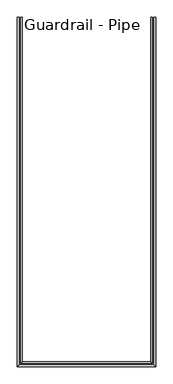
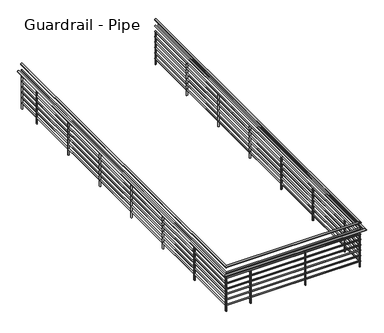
"""IFC4 building model written with IfcOpenShell, lengths in millimetres: railing geometry, Guardrail - Pipe."""

from ifc_helpers import new_model, si_unit, frame, origin, place, context, project, spatial, circle_curve, ellipse_curve, source, transform, mapped, element, save
from ifc_brep_helpers import plane_surface, cylinder_surface, advanced_brep


def guardrail_pipe_73f3f576(model_context):
    return source(origin(), model_context, "Body", "AdvancedBrep", [
        advanced_brep(
        [(13977.3813552, 40732.0, 4705.35), (13939.2813552, 40732.0, 4705.35), (13977.3813552, 32813.55, 4705.35), (13939.2813552, 32851.65, 4705.35), (10956.4813551, 32813.55, 4705.35), (10994.5813551, 32851.65, 4705.35), (10956.4813551, 40732.0, 4705.35), (10994.5813551, 40732.0, 4705.35)],
        [
            (0, 1, circle_curve(frame((13958.3313552, 40732.0, 4705.35), z_axis=(0.0, 1.0, 0.0), x_axis=(-1.0, 0.0, 0.0)), 19.05)),
            (1, 0, circle_curve(frame((13958.3313552, 40732.0, 4705.35), z_axis=(0.0, 1.0, 0.0), x_axis=(-1.0, 0.0, 0.0)), 19.05)),
            (0, 2),
            (2, 3, ellipse_curve(frame((13958.3313552, 32832.6, 4705.35), z_axis=(0.7071067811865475, 0.7071067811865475, 0.0), x_axis=(-0.7071067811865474, 0.7071067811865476, 0.0)), 26.9407684, 19.05)),
            (3, 1),
            (3, 2, ellipse_curve(frame((13958.3313552, 32832.6, 4705.35), z_axis=(0.7071067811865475, 0.7071067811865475, 0.0), x_axis=(-0.7071067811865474, 0.7071067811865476, 0.0)), 26.9407684, 19.05)),
            (2, 4),
            (4, 5, ellipse_curve(frame((10975.5313551, 32832.6, 4705.35), z_axis=(0.7071067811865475, -0.7071067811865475, 0.0), x_axis=(0.7071067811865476, 0.7071067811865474, 0.0)), 26.9407684, 19.05)),
            (5, 3),
            (5, 4, ellipse_curve(frame((10975.5313551, 32832.6, 4705.35), z_axis=(0.7071067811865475, -0.7071067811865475, 0.0), x_axis=(0.7071067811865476, 0.7071067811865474, 0.0)), 26.9407684, 19.05)),
            (6, 7, circle_curve(frame((10975.5313551, 40732.0, 4705.35), z_axis=(0.0, 1.0, 0.0), x_axis=(1.0, 0.0, 0.0)), 19.05)),
            (7, 6, circle_curve(frame((10975.5313551, 40732.0, 4705.35), z_axis=(0.0, 1.0, 0.0), x_axis=(1.0, 0.0, 0.0)), 19.05)),
            (4, 6),
            (7, 5),
        ],
        [
            plane_surface(frame((13958.3313552, 40732.0, 4724.4), z_axis=(0.0, 1.0, 0.0), x_axis=(0.0, 0.0, -1.0))),
            cylinder_surface(frame((13958.3313552, 40732.0, 4705.35), z_axis=(0.0, 1.0, 0.0), x_axis=(-1.0, 0.0, 0.0)), 19.05),
            cylinder_surface(frame((13958.3313552, 32832.6, 4705.35), z_axis=(1.0, 0.0, 0.0), x_axis=(0.0, 1.0, 0.0)), 19.05),
            plane_surface(frame((10975.5313551, 40732.0, 4724.4), z_axis=(0.0, 1.0, 0.0), x_axis=(0.0, 0.0, 1.0))),
            cylinder_surface(frame((10975.5313551, 32832.6, 4705.35), z_axis=(0.0, -1.0, 0.0), x_axis=(1.0, 0.0, 0.0)), 19.05),
        ],
        [
            (0, [[1, 2]]),
            (1, [[-1, 3, 4, 5]]),
            (1, [[-2, -5, 6, -3]]),
            (2, [[-4, 7, 8, 9]]),
            (2, [[-6, -9, 10, -7]]),
            (3, [[11, 12]]),
            (4, [[-8, 13, -12, 14]]),
            (4, [[-10, -14, -11, -13]]),
        ],
    ),
        advanced_brep(
        [(13971.0313552, 40732.0, 4559.3), (13945.6313552, 40732.0, 4559.3), (13971.0313552, 32819.9, 4559.3), (13945.6313552, 32845.3, 4559.3), (10962.8313551, 32819.9, 4559.3), (10988.2313551, 32845.3, 4559.3), (10962.8313551, 40732.0, 4559.3), (10988.2313551, 40732.0, 4559.3)],
        [
            (0, 1, circle_curve(frame((13958.3313552, 40732.0, 4559.3), z_axis=(0.0, 1.0, 0.0), x_axis=(-1.0, 0.0, 0.0)), 12.7)),
            (1, 0, circle_curve(frame((13958.3313552, 40732.0, 4559.3), z_axis=(0.0, 1.0, 0.0), x_axis=(-1.0, 0.0, 0.0)), 12.7)),
            (0, 2),
            (2, 3, ellipse_curve(frame((13958.3313552, 32832.6, 4559.3), z_axis=(0.7071067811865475, 0.7071067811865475, 0.0), x_axis=(-0.7071067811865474, 0.7071067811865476, 0.0)), 17.9605122, 12.7)),
            (3, 1),
            (3, 2, ellipse_curve(frame((13958.3313552, 32832.6, 4559.3), z_axis=(0.7071067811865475, 0.7071067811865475, 0.0), x_axis=(-0.7071067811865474, 0.7071067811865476, 0.0)), 17.9605122, 12.7)),
            (2, 4),
            (4, 5, ellipse_curve(frame((10975.5313551, 32832.6, 4559.3), z_axis=(0.7071067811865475, -0.7071067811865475, 0.0), x_axis=(0.7071067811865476, 0.7071067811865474, 0.0)), 17.9605122, 12.7)),
            (5, 3),
            (5, 4, ellipse_curve(frame((10975.5313551, 32832.6, 4559.3), z_axis=(0.7071067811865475, -0.7071067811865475, 0.0), x_axis=(0.7071067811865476, 0.7071067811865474, 0.0)), 17.9605122, 12.7)),
            (6, 7, circle_curve(frame((10975.5313551, 40732.0, 4559.3), z_axis=(0.0, 1.0, 0.0), x_axis=(1.0, 0.0, 0.0)), 12.7)),
            (7, 6, circle_curve(frame((10975.5313551, 40732.0, 4559.3), z_axis=(0.0, 1.0, 0.0), x_axis=(1.0, 0.0, 0.0)), 12.7)),
            (4, 6),
            (7, 5),
        ],
        [
            plane_surface(frame((13958.3313552, 40732.0, 4572.0), z_axis=(0.0, 1.0, 0.0), x_axis=(0.0, 0.0, -1.0))),
            cylinder_surface(frame((13958.3313552, 40732.0, 4559.3), z_axis=(0.0, 1.0, 0.0), x_axis=(-1.0, 0.0, 0.0)), 12.7),
            cylinder_surface(frame((13958.3313552, 32832.6, 4559.3), z_axis=(1.0, 0.0, 0.0), x_axis=(0.0, 1.0, 0.0)), 12.7),
            plane_surface(frame((10975.5313551, 40732.0, 4572.0), z_axis=(0.0, 1.0, 0.0), x_axis=(0.0, 0.0, 1.0))),
            cylinder_surface(frame((10975.5313551, 32832.6, 4559.3), z_axis=(0.0, -1.0, 0.0), x_axis=(1.0, 0.0, 0.0)), 12.7),
        ],
        [
            (0, [[1, 2]]),
            (1, [[-1, 3, 4, 5]]),
            (1, [[-2, -5, 6, -3]]),
            (2, [[-4, 7, 8, 9]]),
            (2, [[-6, -9, 10, -7]]),
            (3, [[11, 12]]),
            (4, [[-8, 13, -12, 14]]),
            (4, [[-10, -14, -11, -13]]),
        ],
    ),
        advanced_brep(
        [(14053.5813552, 40732.0, 4552.95), (14015.4813552, 40732.0, 4552.95), (14053.5813552, 32737.35, 4552.95), (14015.4813552, 32775.45, 4552.95), (10880.2813551, 32737.35, 4552.95), (10918.3813551, 32775.45, 4552.95), (10880.2813551, 40732.0, 4552.95), (10918.3813551, 40732.0, 4552.95)],
        [
            (0, 1, circle_curve(frame((14034.5313552, 40732.0, 4552.95), z_axis=(0.0, 1.0, 0.0), x_axis=(-1.0, 0.0, 0.0)), 19.05)),
            (1, 0, circle_curve(frame((14034.5313552, 40732.0, 4552.95), z_axis=(0.0, 1.0, 0.0), x_axis=(-1.0, 0.0, 0.0)), 19.05)),
            (0, 2),
            (2, 3, ellipse_curve(frame((14034.5313552, 32756.4, 4552.95), z_axis=(0.7071067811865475, 0.7071067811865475, 0.0), x_axis=(-0.7071067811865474, 0.7071067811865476, 0.0)), 26.9407684, 19.05)),
            (3, 1),
            (3, 2, ellipse_curve(frame((14034.5313552, 32756.4, 4552.95), z_axis=(0.7071067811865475, 0.7071067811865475, 0.0), x_axis=(-0.7071067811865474, 0.7071067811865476, 0.0)), 26.9407684, 19.05)),
            (2, 4),
            (4, 5, ellipse_curve(frame((10899.3313551, 32756.4, 4552.95), z_axis=(0.7071067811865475, -0.7071067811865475, 0.0), x_axis=(0.7071067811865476, 0.7071067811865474, 0.0)), 26.9407684, 19.05)),
            (5, 3),
            (5, 4, ellipse_curve(frame((10899.3313551, 32756.4, 4552.95), z_axis=(0.7071067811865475, -0.7071067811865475, 0.0), x_axis=(0.7071067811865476, 0.7071067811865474, 0.0)), 26.9407684, 19.05)),
            (6, 7, circle_curve(frame((10899.3313551, 40732.0, 4552.95), z_axis=(0.0, 1.0, 0.0), x_axis=(1.0, 0.0, 0.0)), 19.05)),
            (7, 6, circle_curve(frame((10899.3313551, 40732.0, 4552.95), z_axis=(0.0, 1.0, 0.0), x_axis=(1.0, 0.0, 0.0)), 19.05)),
            (4, 6),
            (7, 5),
        ],
        [
            plane_surface(frame((14034.5313552, 40732.0, 4572.0), z_axis=(0.0, 1.0, 0.0), x_axis=(0.0, 0.0, -1.0))),
            cylinder_surface(frame((14034.5313552, 40732.0, 4552.95), z_axis=(0.0, 1.0, 0.0), x_axis=(-1.0, 0.0, 0.0)), 19.05),
            cylinder_surface(frame((14034.5313552, 32756.4, 4552.95), z_axis=(1.0, 0.0, 0.0), x_axis=(0.0, 1.0, 0.0)), 19.05),
            plane_surface(frame((10899.3313551, 40732.0, 4572.0), z_axis=(0.0, 1.0, 0.0), x_axis=(0.0, 0.0, 1.0))),
            cylinder_surface(frame((10899.3313551, 32756.4, 4552.95), z_axis=(0.0, -1.0, 0.0), x_axis=(1.0, 0.0, 0.0)), 19.05),
        ],
        [
            (0, [[1, 2]]),
            (1, [[-1, 3, 4, 5]]),
            (1, [[-2, -5, 6, -3]]),
            (2, [[-4, 7, 8, 9]]),
            (2, [[-6, -9, 10, -7]]),
            (3, [[11, 12]]),
            (4, [[-8, 13, -12, 14]]),
            (4, [[-10, -14, -11, -13]]),
        ],
    ),
        advanced_brep(
        [(13971.0313552, 40732.0, 4432.3), (13945.6313552, 40732.0, 4432.3), (13971.0313552, 32819.9, 4432.3), (13945.6313552, 32845.3, 4432.3), (10962.8313551, 32819.9, 4432.3), (10988.2313551, 32845.3, 4432.3), (10962.8313551, 40732.0, 4432.3), (10988.2313551, 40732.0, 4432.3)],
        [
            (0, 1, circle_curve(frame((13958.3313552, 40732.0, 4432.3), z_axis=(0.0, 1.0, 0.0), x_axis=(-1.0, 0.0, 0.0)), 12.7)),
            (1, 0, circle_curve(frame((13958.3313552, 40732.0, 4432.3), z_axis=(0.0, 1.0, 0.0), x_axis=(-1.0, 0.0, 0.0)), 12.7)),
            (0, 2),
            (2, 3, ellipse_curve(frame((13958.3313552, 32832.6, 4432.3), z_axis=(0.7071067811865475, 0.7071067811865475, 0.0), x_axis=(-0.7071067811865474, 0.7071067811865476, 0.0)), 17.9605122, 12.7)),
            (3, 1),
            (3, 2, ellipse_curve(frame((13958.3313552, 32832.6, 4432.3), z_axis=(0.7071067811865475, 0.7071067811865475, 0.0), x_axis=(-0.7071067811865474, 0.7071067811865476, 0.0)), 17.9605122, 12.7)),
            (2, 4),
            (4, 5, ellipse_curve(frame((10975.5313551, 32832.6, 4432.3), z_axis=(0.7071067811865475, -0.7071067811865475, 0.0), x_axis=(0.7071067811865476, 0.7071067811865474, 0.0)), 17.9605122, 12.7)),
            (5, 3),
            (5, 4, ellipse_curve(frame((10975.5313551, 32832.6, 4432.3), z_axis=(0.7071067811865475, -0.7071067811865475, 0.0), x_axis=(0.7071067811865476, 0.7071067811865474, 0.0)), 17.9605122, 12.7)),
            (6, 7, circle_curve(frame((10975.5313551, 40732.0, 4432.3), z_axis=(0.0, 1.0, 0.0), x_axis=(1.0, 0.0, 0.0)), 12.7)),
            (7, 6, circle_curve(frame((10975.5313551, 40732.0, 4432.3), z_axis=(0.0, 1.0, 0.0), x_axis=(1.0, 0.0, 0.0)), 12.7)),
            (4, 6),
            (7, 5),
        ],
        [
            plane_surface(frame((13958.3313552, 40732.0, 4445.0), z_axis=(0.0, 1.0, 0.0), x_axis=(0.0, 0.0, -1.0))),
            cylinder_surface(frame((13958.3313552, 40732.0, 4432.3), z_axis=(0.0, 1.0, 0.0), x_axis=(-1.0, 0.0, 0.0)), 12.7),
            cylinder_surface(frame((13958.3313552, 32832.6, 4432.3), z_axis=(1.0, 0.0, 0.0), x_axis=(0.0, 1.0, 0.0)), 12.7),
            plane_surface(frame((10975.5313551, 40732.0, 4445.0), z_axis=(0.0, 1.0, 0.0), x_axis=(0.0, 0.0, 1.0))),
            cylinder_surface(frame((10975.5313551, 32832.6, 4432.3), z_axis=(0.0, -1.0, 0.0), x_axis=(1.0, 0.0, 0.0)), 12.7),
        ],
        [
            (0, [[1, 2]]),
            (1, [[-1, 3, 4, 5]]),
            (1, [[-2, -5, 6, -3]]),
            (2, [[-4, 7, 8, 9]]),
            (2, [[-6, -9, 10, -7]]),
            (3, [[11, 12]]),
            (4, [[-8, 13, -12, 14]]),
            (4, [[-10, -14, -11, -13]]),
        ],
    ),
        advanced_brep(
        [(13971.0313552, 40732.0, 4305.3), (13945.6313552, 40732.0, 4305.3), (13971.0313552, 32819.9, 4305.3), (13945.6313552, 32845.3, 4305.3), (10962.8313551, 32819.9, 4305.3), (10988.2313551, 32845.3, 4305.3), (10962.8313551, 40732.0, 4305.3), (10988.2313551, 40732.0, 4305.3)],
        [
            (0, 1, circle_curve(frame((13958.3313552, 40732.0, 4305.3), z_axis=(0.0, 1.0, 0.0), x_axis=(-1.0, 0.0, 0.0)), 12.7)),
            (1, 0, circle_curve(frame((13958.3313552, 40732.0, 4305.3), z_axis=(0.0, 1.0, 0.0), x_axis=(-1.0, 0.0, 0.0)), 12.7)),
            (0, 2),
            (2, 3, ellipse_curve(frame((13958.3313552, 32832.6, 4305.3), z_axis=(0.7071067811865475, 0.7071067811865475, 0.0), x_axis=(-0.7071067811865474, 0.7071067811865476, 0.0)), 17.9605122, 12.7)),
            (3, 1),
            (3, 2, ellipse_curve(frame((13958.3313552, 32832.6, 4305.3), z_axis=(0.7071067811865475, 0.7071067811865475, 0.0), x_axis=(-0.7071067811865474, 0.7071067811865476, 0.0)), 17.9605122, 12.7)),
            (2, 4),
            (4, 5, ellipse_curve(frame((10975.5313551, 32832.6, 4305.3), z_axis=(0.7071067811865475, -0.7071067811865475, 0.0), x_axis=(0.7071067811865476, 0.7071067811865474, 0.0)), 17.9605122, 12.7)),
            (5, 3),
            (5, 4, ellipse_curve(frame((10975.5313551, 32832.6, 4305.3), z_axis=(0.7071067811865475, -0.7071067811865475, 0.0), x_axis=(0.7071067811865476, 0.7071067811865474, 0.0)), 17.9605122, 12.7)),
            (6, 7, circle_curve(frame((10975.5313551, 40732.0, 4305.3), z_axis=(0.0, 1.0, 0.0), x_axis=(1.0, 0.0, 0.0)), 12.7)),
            (7, 6, circle_curve(frame((10975.5313551, 40732.0, 4305.3), z_axis=(0.0, 1.0, 0.0), x_axis=(1.0, 0.0, 0.0)), 12.7)),
            (4, 6),
            (7, 5),
        ],
        [
            plane_surface(frame((13958.3313552, 40732.0, 4318.0), z_axis=(0.0, 1.0, 0.0), x_axis=(0.0, 0.0, -1.0))),
            cylinder_surface(frame((13958.3313552, 40732.0, 4305.3), z_axis=(0.0, 1.0, 0.0), x_axis=(-1.0, 0.0, 0.0)), 12.7),
            cylinder_surface(frame((13958.3313552, 32832.6, 4305.3), z_axis=(1.0, 0.0, 0.0), x_axis=(0.0, 1.0, 0.0)), 12.7),
            plane_surface(frame((10975.5313551, 40732.0, 4318.0), z_axis=(0.0, 1.0, 0.0), x_axis=(0.0, 0.0, 1.0))),
            cylinder_surface(frame((10975.5313551, 32832.6, 4305.3), z_axis=(0.0, -1.0, 0.0), x_axis=(1.0, 0.0, 0.0)), 12.7),
        ],
        [
            (0, [[1, 2]]),
            (1, [[-1, 3, 4, 5]]),
            (1, [[-2, -5, 6, -3]]),
            (2, [[-4, 7, 8, 9]]),
            (2, [[-6, -9, 10, -7]]),
            (3, [[11, 12]]),
            (4, [[-8, 13, -12, 14]]),
            (4, [[-10, -14, -11, -13]]),
        ],
    ),
        advanced_brep(
        [(13971.0313552, 40732.0, 4178.3), (13945.6313552, 40732.0, 4178.3), (13971.0313552, 32819.9, 4178.3), (13945.6313552, 32845.3, 4178.3), (10962.8313551, 32819.9, 4178.3), (10988.2313551, 32845.3, 4178.3), (10962.8313551, 40732.0, 4178.3), (10988.2313551, 40732.0, 4178.3)],
        [
            (0, 1, circle_curve(frame((13958.3313552, 40732.0, 4178.3), z_axis=(0.0, 1.0, 0.0), x_axis=(-1.0, 0.0, 0.0)), 12.7)),
            (1, 0, circle_curve(frame((13958.3313552, 40732.0, 4178.3), z_axis=(0.0, 1.0, 0.0), x_axis=(-1.0, 0.0, 0.0)), 12.7)),
            (0, 2),
            (2, 3, ellipse_curve(frame((13958.3313552, 32832.6, 4178.3), z_axis=(0.7071067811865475, 0.7071067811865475, 0.0), x_axis=(-0.7071067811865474, 0.7071067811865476, 0.0)), 17.9605122, 12.7)),
            (3, 1),
            (3, 2, ellipse_curve(frame((13958.3313552, 32832.6, 4178.3), z_axis=(0.7071067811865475, 0.7071067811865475, 0.0), x_axis=(-0.7071067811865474, 0.7071067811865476, 0.0)), 17.9605122, 12.7)),
            (2, 4),
            (4, 5, ellipse_curve(frame((10975.5313551, 32832.6, 4178.3), z_axis=(0.7071067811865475, -0.7071067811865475, 0.0), x_axis=(0.7071067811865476, 0.7071067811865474, 0.0)), 17.9605122, 12.7)),
            (5, 3),
            (5, 4, ellipse_curve(frame((10975.5313551, 32832.6, 4178.3), z_axis=(0.7071067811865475, -0.7071067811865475, 0.0), x_axis=(0.7071067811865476, 0.7071067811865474, 0.0)), 17.9605122, 12.7)),
            (6, 7, circle_curve(frame((10975.5313551, 40732.0, 4178.3), z_axis=(0.0, 1.0, 0.0), x_axis=(1.0, 0.0, 0.0)), 12.7)),
            (7, 6, circle_curve(frame((10975.5313551, 40732.0, 4178.3), z_axis=(0.0, 1.0, 0.0), x_axis=(1.0, 0.0, 0.0)), 12.7)),
            (4, 6),
            (7, 5),
        ],
        [
            plane_surface(frame((13958.3313552, 40732.0, 4191.0), z_axis=(0.0, 1.0, 0.0), x_axis=(0.0, 0.0, -1.0))),
            cylinder_surface(frame((13958.3313552, 40732.0, 4178.3), z_axis=(0.0, 1.0, 0.0), x_axis=(-1.0, 0.0, 0.0)), 12.7),
            cylinder_surface(frame((13958.3313552, 32832.6, 4178.3), z_axis=(1.0, 0.0, 0.0), x_axis=(0.0, 1.0, 0.0)), 12.7),
            plane_surface(frame((10975.5313551, 40732.0, 4191.0), z_axis=(0.0, 1.0, 0.0), x_axis=(0.0, 0.0, 1.0))),
            cylinder_surface(frame((10975.5313551, 32832.6, 4178.3), z_axis=(0.0, -1.0, 0.0), x_axis=(1.0, 0.0, 0.0)), 12.7),
        ],
        [
            (0, [[1, 2]]),
            (1, [[-1, 3, 4, 5]]),
            (1, [[-2, -5, 6, -3]]),
            (2, [[-4, 7, 8, 9]]),
            (2, [[-6, -9, 10, -7]]),
            (3, [[11, 12]]),
            (4, [[-8, 13, -12, 14]]),
            (4, [[-10, -14, -11, -13]]),
        ],
    ),
        advanced_brep(
        [(13971.0313552, 40732.0, 4051.3), (13945.6313552, 40732.0, 4051.3), (13971.0313552, 32819.9, 4051.3), (13945.6313552, 32845.3, 4051.3), (10962.8313551, 32819.9, 4051.3), (10988.2313551, 32845.3, 4051.3), (10962.8313551, 40732.0, 4051.3), (10988.2313551, 40732.0, 4051.3)],
        [
            (0, 1, circle_curve(frame((13958.3313552, 40732.0, 4051.3), z_axis=(0.0, 1.0, 0.0), x_axis=(-1.0, 0.0, 0.0)), 12.7)),
            (1, 0, circle_curve(frame((13958.3313552, 40732.0, 4051.3), z_axis=(0.0, 1.0, 0.0), x_axis=(-1.0, 0.0, 0.0)), 12.7)),
            (0, 2),
            (2, 3, ellipse_curve(frame((13958.3313552, 32832.6, 4051.3), z_axis=(0.7071067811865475, 0.7071067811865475, 0.0), x_axis=(-0.7071067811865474, 0.7071067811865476, 0.0)), 17.9605122, 12.7)),
            (3, 1),
            (3, 2, ellipse_curve(frame((13958.3313552, 32832.6, 4051.3), z_axis=(0.7071067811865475, 0.7071067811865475, 0.0), x_axis=(-0.7071067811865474, 0.7071067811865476, 0.0)), 17.9605122, 12.7)),
            (2, 4),
            (4, 5, ellipse_curve(frame((10975.5313551, 32832.6, 4051.3), z_axis=(0.7071067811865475, -0.7071067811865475, 0.0), x_axis=(0.7071067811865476, 0.7071067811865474, 0.0)), 17.9605122, 12.7)),
            (5, 3),
            (5, 4, ellipse_curve(frame((10975.5313551, 32832.6, 4051.3), z_axis=(0.7071067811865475, -0.7071067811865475, 0.0), x_axis=(0.7071067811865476, 0.7071067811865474, 0.0)), 17.9605122, 12.7)),
            (6, 7, circle_curve(frame((10975.5313551, 40732.0, 4051.3), z_axis=(0.0, 1.0, 0.0), x_axis=(1.0, 0.0, 0.0)), 12.7)),
            (7, 6, circle_curve(frame((10975.5313551, 40732.0, 4051.3), z_axis=(0.0, 1.0, 0.0), x_axis=(1.0, 0.0, 0.0)), 12.7)),
            (4, 6),
            (7, 5),
        ],
        [
            plane_surface(frame((13958.3313552, 40732.0, 4064.0), z_axis=(0.0, 1.0, 0.0), x_axis=(0.0, 0.0, -1.0))),
            cylinder_surface(frame((13958.3313552, 40732.0, 4051.3), z_axis=(0.0, 1.0, 0.0), x_axis=(-1.0, 0.0, 0.0)), 12.7),
            cylinder_surface(frame((13958.3313552, 32832.6, 4051.3), z_axis=(1.0, 0.0, 0.0), x_axis=(0.0, 1.0, 0.0)), 12.7),
            plane_surface(frame((10975.5313551, 40732.0, 4064.0), z_axis=(0.0, 1.0, 0.0), x_axis=(0.0, 0.0, 1.0))),
            cylinder_surface(frame((10975.5313551, 32832.6, 4051.3), z_axis=(0.0, -1.0, 0.0), x_axis=(1.0, 0.0, 0.0)), 12.7),
        ],
        [
            (0, [[1, 2]]),
            (1, [[-1, 3, 4, 5]]),
            (1, [[-2, -5, 6, -3]]),
            (2, [[-4, 7, 8, 9]]),
            (2, [[-6, -9, 10, -7]]),
            (3, [[11, 12]]),
            (4, [[-8, 13, -12, 14]]),
            (4, [[-10, -14, -11, -13]]),
        ],
    ),
        advanced_brep(
        [(13971.0313552, 40732.0, 3924.3), (13945.6313552, 40732.0, 3924.3), (13971.0313552, 32819.9, 3924.3), (13945.6313552, 32845.3, 3924.3), (10962.8313551, 32819.9, 3924.3), (10988.2313551, 32845.3, 3924.3), (10962.8313551, 40732.0, 3924.3), (10988.2313551, 40732.0, 3924.3)],
        [
            (0, 1, circle_curve(frame((13958.3313552, 40732.0, 3924.3), z_axis=(0.0, 1.0, 0.0), x_axis=(-1.0, 0.0, 0.0)), 12.7)),
            (1, 0, circle_curve(frame((13958.3313552, 40732.0, 3924.3), z_axis=(0.0, 1.0, 0.0), x_axis=(-1.0, 0.0, 0.0)), 12.7)),
            (0, 2),
            (2, 3, ellipse_curve(frame((13958.3313552, 32832.6, 3924.3), z_axis=(0.7071067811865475, 0.7071067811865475, 0.0), x_axis=(-0.7071067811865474, 0.7071067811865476, 0.0)), 17.9605122, 12.7)),
            (3, 1),
            (3, 2, ellipse_curve(frame((13958.3313552, 32832.6, 3924.3), z_axis=(0.7071067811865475, 0.7071067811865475, 0.0), x_axis=(-0.7071067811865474, 0.7071067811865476, 0.0)), 17.9605122, 12.7)),
            (2, 4),
            (4, 5, ellipse_curve(frame((10975.5313551, 32832.6, 3924.3), z_axis=(0.7071067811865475, -0.7071067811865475, 0.0), x_axis=(0.7071067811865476, 0.7071067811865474, 0.0)), 17.9605122, 12.7)),
            (5, 3),
            (5, 4, ellipse_curve(frame((10975.5313551, 32832.6, 3924.3), z_axis=(0.7071067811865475, -0.7071067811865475, 0.0), x_axis=(0.7071067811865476, 0.7071067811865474, 0.0)), 17.9605122, 12.7)),
            (6, 7, circle_curve(frame((10975.5313551, 40732.0, 3924.3), z_axis=(0.0, 1.0, 0.0), x_axis=(1.0, 0.0, 0.0)), 12.7)),
            (7, 6, circle_curve(frame((10975.5313551, 40732.0, 3924.3), z_axis=(0.0, 1.0, 0.0), x_axis=(1.0, 0.0, 0.0)), 12.7)),
            (4, 6),
            (7, 5),
        ],
        [
            plane_surface(frame((13958.3313552, 40732.0, 3937.0), z_axis=(0.0, 1.0, 0.0), x_axis=(0.0, 0.0, -1.0))),
            cylinder_surface(frame((13958.3313552, 40732.0, 3924.3), z_axis=(0.0, 1.0, 0.0), x_axis=(-1.0, 0.0, 0.0)), 12.7),
            cylinder_surface(frame((13958.3313552, 32832.6, 3924.3), z_axis=(1.0, 0.0, 0.0), x_axis=(0.0, 1.0, 0.0)), 12.7),
            plane_surface(frame((10975.5313551, 40732.0, 3937.0), z_axis=(0.0, 1.0, 0.0), x_axis=(0.0, 0.0, 1.0))),
            cylinder_surface(frame((10975.5313551, 32832.6, 3924.3), z_axis=(0.0, -1.0, 0.0), x_axis=(1.0, 0.0, 0.0)), 12.7),
        ],
        [
            (0, [[1, 2]]),
            (1, [[-1, 3, 4, 5]]),
            (1, [[-2, -5, 6, -3]]),
            (2, [[-4, 7, 8, 9]]),
            (2, [[-6, -9, 10, -7]]),
            (3, [[11, 12]]),
            (4, [[-8, 13, -12, 14]]),
            (4, [[-10, -14, -11, -13]]),
        ],
    ),
        advanced_brep(
        [(13971.0313552, 40732.0, 3797.3), (13945.6313552, 40732.0, 3797.3), (13971.0313552, 32819.9, 3797.3), (13945.6313552, 32845.3, 3797.3), (10962.8313551, 32819.9, 3797.3), (10988.2313551, 32845.3, 3797.3), (10962.8313551, 40732.0, 3797.3), (10988.2313551, 40732.0, 3797.3)],
        [
            (0, 1, circle_curve(frame((13958.3313552, 40732.0, 3797.3), z_axis=(0.0, 1.0, 0.0), x_axis=(-1.0, 0.0, 0.0)), 12.7)),
            (1, 0, circle_curve(frame((13958.3313552, 40732.0, 3797.3), z_axis=(0.0, 1.0, 0.0), x_axis=(-1.0, 0.0, 0.0)), 12.7)),
            (0, 2),
            (2, 3, ellipse_curve(frame((13958.3313552, 32832.6, 3797.3), z_axis=(0.7071067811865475, 0.7071067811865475, 0.0), x_axis=(-0.7071067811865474, 0.7071067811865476, 0.0)), 17.9605122, 12.7)),
            (3, 1),
            (3, 2, ellipse_curve(frame((13958.3313552, 32832.6, 3797.3), z_axis=(0.7071067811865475, 0.7071067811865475, 0.0), x_axis=(-0.7071067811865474, 0.7071067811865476, 0.0)), 17.9605122, 12.7)),
            (2, 4),
            (4, 5, ellipse_curve(frame((10975.5313551, 32832.6, 3797.3), z_axis=(0.7071067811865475, -0.7071067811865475, 0.0), x_axis=(0.7071067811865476, 0.7071067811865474, 0.0)), 17.9605122, 12.7)),
            (5, 3),
            (5, 4, ellipse_curve(frame((10975.5313551, 32832.6, 3797.3), z_axis=(0.7071067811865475, -0.7071067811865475, 0.0), x_axis=(0.7071067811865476, 0.7071067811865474, 0.0)), 17.9605122, 12.7)),
            (6, 7, circle_curve(frame((10975.5313551, 40732.0, 3797.3), z_axis=(0.0, 1.0, 0.0), x_axis=(1.0, 0.0, 0.0)), 12.7)),
            (7, 6, circle_curve(frame((10975.5313551, 40732.0, 3797.3), z_axis=(0.0, 1.0, 0.0), x_axis=(1.0, 0.0, 0.0)), 12.7)),
            (4, 6),
            (7, 5),
        ],
        [
            plane_surface(frame((13958.3313552, 40732.0, 3810.0), z_axis=(0.0, 1.0, 0.0), x_axis=(0.0, 0.0, -1.0))),
            cylinder_surface(frame((13958.3313552, 40732.0, 3797.3), z_axis=(0.0, 1.0, 0.0), x_axis=(-1.0, 0.0, 0.0)), 12.7),
            cylinder_surface(frame((13958.3313552, 32832.6, 3797.3), z_axis=(1.0, 0.0, 0.0), x_axis=(0.0, 1.0, 0.0)), 12.7),
            plane_surface(frame((10975.5313551, 40732.0, 3810.0), z_axis=(0.0, 1.0, 0.0), x_axis=(0.0, 0.0, 1.0))),
            cylinder_surface(frame((10975.5313551, 32832.6, 3797.3), z_axis=(0.0, -1.0, 0.0), x_axis=(1.0, 0.0, 0.0)), 12.7),
        ],
        [
            (0, [[1, 2]]),
            (1, [[-1, 3, 4, 5]]),
            (1, [[-2, -5, 6, -3]]),
            (2, [[-4, 7, 8, 9]]),
            (2, [[-6, -9, 10, -7]]),
            (3, [[11, 12]]),
            (4, [[-8, 13, -12, 14]]),
            (4, [[-10, -14, -11, -13]]),
        ],
    ),
        advanced_brep(
        [(10988.2313551, 40147.8, 4419.6), (10988.2313551, 40147.8, 3657.6), (10962.8313551, 40147.8, 3657.6), (10962.8313551, 40147.8, 4419.6)],
        [
            (0, 1),
            (1, 2, ellipse_curve(frame((10975.5313551, 40147.8, 3657.6), z_axis=(0.0, -0.536857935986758, 0.8436726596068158), x_axis=(0.0, 0.8436726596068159, 0.536857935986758)), 15.0532317, 12.7)),
            (2, 3),
            (3, 0, ellipse_curve(frame((10975.5313551, 40147.8, 4419.6), z_axis=(0.0, 0.5368579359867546, -0.8436726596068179), x_axis=(0.0, 0.843672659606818, 0.5368579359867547)), 15.0532317, 12.7)),
            (0, 3, ellipse_curve(frame((10975.5313551, 40147.8, 4419.6), z_axis=(0.0, 0.5368579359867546, -0.8436726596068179), x_axis=(0.0, 0.843672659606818, 0.5368579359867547)), 15.0532317, 12.7)),
            (2, 1, ellipse_curve(frame((10975.5313551, 40147.8, 3657.6), z_axis=(0.0, -0.536857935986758, 0.8436726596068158), x_axis=(0.0, 0.8436726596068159, 0.536857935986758)), 15.0532317, 12.7)),
        ],
        [
            cylinder_surface(frame((10975.5313551, 40147.8, 3429.0), z_axis=(0.0, 0.0, 1.0), x_axis=(-1.0, 0.0, 0.0)), 12.7),
            plane_surface(frame((10950.1313551, 40173.2, 4435.7628938), z_axis=(0.0, -0.5368579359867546, 0.8436726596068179), x_axis=(1.0, 0.0, 0.0))),
            plane_surface(frame((10950.1313551, 40122.4, 3641.4371062), z_axis=(0.0, 0.536857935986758, -0.8436726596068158), x_axis=(1.0, 0.0, 0.0))),
        ],
        [
            (0, [[1, 2, 3, 4]]),
            (0, [[-1, 5, -3, 6]]),
            (1, [[-4, -5]]),
            (2, [[-2, -6]]),
        ],
    ),
        advanced_brep(
        [(10988.2313551, 38928.6, 4419.6), (10988.2313551, 38928.6, 3657.6), (10962.8313551, 38928.6, 3657.6), (10962.8313551, 38928.6, 4419.6)],
        [
            (0, 1),
            (1, 2, ellipse_curve(frame((10975.5313551, 38928.6, 3657.6), z_axis=(0.0, -0.536857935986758, 0.8436726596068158), x_axis=(0.0, 0.8436726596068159, 0.536857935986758)), 15.0532317, 12.7)),
            (2, 3),
            (3, 0, ellipse_curve(frame((10975.5313551, 38928.6, 4419.6), z_axis=(0.0, 0.5368579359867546, -0.8436726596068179), x_axis=(0.0, 0.843672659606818, 0.5368579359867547)), 15.0532317, 12.7)),
            (0, 3, ellipse_curve(frame((10975.5313551, 38928.6, 4419.6), z_axis=(0.0, 0.5368579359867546, -0.8436726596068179), x_axis=(0.0, 0.843672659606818, 0.5368579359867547)), 15.0532317, 12.7)),
            (2, 1, ellipse_curve(frame((10975.5313551, 38928.6, 3657.6), z_axis=(0.0, -0.536857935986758, 0.8436726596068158), x_axis=(0.0, 0.8436726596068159, 0.536857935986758)), 15.0532317, 12.7)),
        ],
        [
            cylinder_surface(frame((10975.5313551, 38928.6, 3429.0), z_axis=(0.0, 0.0, 1.0), x_axis=(-1.0, 0.0, 0.0)), 12.7),
            plane_surface(frame((10950.1313551, 38954.0, 4435.7628938), z_axis=(0.0, -0.5368579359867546, 0.8436726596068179), x_axis=(1.0, 0.0, 0.0))),
            plane_surface(frame((10950.1313551, 38903.2, 3641.4371062), z_axis=(0.0, 0.536857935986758, -0.8436726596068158), x_axis=(1.0, 0.0, 0.0))),
        ],
        [
            (0, [[1, 2, 3, 4]]),
            (0, [[-1, 5, -3, 6]]),
            (1, [[-4, -5]]),
            (2, [[-2, -6]]),
        ],
    ),
        advanced_brep(
        [(10988.2313551, 37709.4, 4419.6), (10988.2313551, 37709.4, 3657.6), (10962.8313551, 37709.4, 3657.6), (10962.8313551, 37709.4, 4419.6)],
        [
            (0, 1),
            (1, 2, ellipse_curve(frame((10975.5313551, 37709.4, 3657.6), z_axis=(0.0, -0.536857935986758, 0.8436726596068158), x_axis=(0.0, 0.8436726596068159, 0.536857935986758)), 15.0532317, 12.7)),
            (2, 3),
            (3, 0, ellipse_curve(frame((10975.5313551, 37709.4, 4419.6), z_axis=(0.0, 0.5368579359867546, -0.8436726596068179), x_axis=(0.0, 0.843672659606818, 0.5368579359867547)), 15.0532317, 12.7)),
            (0, 3, ellipse_curve(frame((10975.5313551, 37709.4, 4419.6), z_axis=(0.0, 0.5368579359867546, -0.8436726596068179), x_axis=(0.0, 0.843672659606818, 0.5368579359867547)), 15.0532317, 12.7)),
            (2, 1, ellipse_curve(frame((10975.5313551, 37709.4, 3657.6), z_axis=(0.0, -0.536857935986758, 0.8436726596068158), x_axis=(0.0, 0.8436726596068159, 0.536857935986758)), 15.0532317, 12.7)),
        ],
        [
            cylinder_surface(frame((10975.5313551, 37709.4, 3429.0), z_axis=(0.0, 0.0, 1.0), x_axis=(-1.0, 0.0, 0.0)), 12.7),
            plane_surface(frame((10950.1313551, 37734.8, 4435.7628938), z_axis=(0.0, -0.5368579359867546, 0.8436726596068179), x_axis=(1.0, 0.0, 0.0))),
            plane_surface(frame((10950.1313551, 37684.0, 3641.4371062), z_axis=(0.0, 0.536857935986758, -0.8436726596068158), x_axis=(1.0, 0.0, 0.0))),
        ],
        [
            (0, [[1, 2, 3, 4]]),
            (0, [[-1, 5, -3, 6]]),
            (1, [[-4, -5]]),
            (2, [[-2, -6]]),
        ],
    ),
        advanced_brep(
        [(10988.2313551, 36490.2, 4419.6), (10988.2313551, 36490.2, 3657.6), (10962.8313551, 36490.2, 3657.6), (10962.8313551, 36490.2, 4419.6)],
        [
            (0, 1),
            (1, 2, ellipse_curve(frame((10975.5313551, 36490.2, 3657.6), z_axis=(0.0, -0.536857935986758, 0.8436726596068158), x_axis=(0.0, 0.8436726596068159, 0.536857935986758)), 15.0532317, 12.7)),
            (2, 3),
            (3, 0, ellipse_curve(frame((10975.5313551, 36490.2, 4419.6), z_axis=(0.0, 0.5368579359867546, -0.8436726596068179), x_axis=(0.0, 0.843672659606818, 0.5368579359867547)), 15.0532317, 12.7)),
            (0, 3, ellipse_curve(frame((10975.5313551, 36490.2, 4419.6), z_axis=(0.0, 0.5368579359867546, -0.8436726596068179), x_axis=(0.0, 0.843672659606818, 0.5368579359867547)), 15.0532317, 12.7)),
            (2, 1, ellipse_curve(frame((10975.5313551, 36490.2, 3657.6), z_axis=(0.0, -0.536857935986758, 0.8436726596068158), x_axis=(0.0, 0.8436726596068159, 0.536857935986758)), 15.0532317, 12.7)),
        ],
        [
            cylinder_surface(frame((10975.5313551, 36490.2, 3429.0), z_axis=(0.0, 0.0, 1.0), x_axis=(-1.0, 0.0, 0.0)), 12.7),
            plane_surface(frame((10950.1313551, 36515.6, 4435.7628938), z_axis=(0.0, -0.5368579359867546, 0.8436726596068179), x_axis=(1.0, 0.0, 0.0))),
            plane_surface(frame((10950.1313551, 36464.8, 3641.4371062), z_axis=(0.0, 0.536857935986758, -0.8436726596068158), x_axis=(1.0, 0.0, 0.0))),
        ],
        [
            (0, [[1, 2, 3, 4]]),
            (0, [[-1, 5, -3, 6]]),
            (1, [[-4, -5]]),
            (2, [[-2, -6]]),
        ],
    ),
        advanced_brep(
        [(10988.2313551, 35271.0, 4419.6), (10988.2313551, 35271.0, 3657.6), (10962.8313551, 35271.0, 3657.6), (10962.8313551, 35271.0, 4419.6)],
        [
            (0, 1),
            (1, 2, ellipse_curve(frame((10975.5313551, 35271.0, 3657.6), z_axis=(0.0, -0.536857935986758, 0.8436726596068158), x_axis=(0.0, 0.8436726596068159, 0.536857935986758)), 15.0532317, 12.7)),
            (2, 3),
            (3, 0, ellipse_curve(frame((10975.5313551, 35271.0, 4419.6), z_axis=(0.0, 0.5368579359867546, -0.8436726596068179), x_axis=(0.0, 0.843672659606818, 0.5368579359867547)), 15.0532317, 12.7)),
            (0, 3, ellipse_curve(frame((10975.5313551, 35271.0, 4419.6), z_axis=(0.0, 0.5368579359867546, -0.8436726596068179), x_axis=(0.0, 0.843672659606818, 0.5368579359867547)), 15.0532317, 12.7)),
            (2, 1, ellipse_curve(frame((10975.5313551, 35271.0, 3657.6), z_axis=(0.0, -0.536857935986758, 0.8436726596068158), x_axis=(0.0, 0.8436726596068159, 0.536857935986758)), 15.0532317, 12.7)),
        ],
        [
            cylinder_surface(frame((10975.5313551, 35271.0, 3429.0), z_axis=(0.0, 0.0, 1.0), x_axis=(-1.0, 0.0, 0.0)), 12.7),
            plane_surface(frame((10950.1313551, 35296.4, 4435.7628938), z_axis=(0.0, -0.5368579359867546, 0.8436726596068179), x_axis=(1.0, 0.0, 0.0))),
            plane_surface(frame((10950.1313551, 35245.6, 3641.4371062), z_axis=(0.0, 0.536857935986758, -0.8436726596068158), x_axis=(1.0, 0.0, 0.0))),
        ],
        [
            (0, [[1, 2, 3, 4]]),
            (0, [[-1, 5, -3, 6]]),
            (1, [[-4, -5]]),
            (2, [[-2, -6]]),
        ],
    ),
        advanced_brep(
        [(10988.2313551, 34051.8, 4419.6), (10988.2313551, 34051.8, 3657.6), (10962.8313551, 34051.8, 3657.6), (10962.8313551, 34051.8, 4419.6)],
        [
            (0, 1),
            (1, 2, ellipse_curve(frame((10975.5313551, 34051.8, 3657.6), z_axis=(0.0, -0.536857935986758, 0.8436726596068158), x_axis=(0.0, 0.8436726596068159, 0.536857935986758)), 15.0532317, 12.7)),
            (2, 3),
            (3, 0, ellipse_curve(frame((10975.5313551, 34051.8, 4419.6), z_axis=(0.0, 0.5368579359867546, -0.8436726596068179), x_axis=(0.0, 0.843672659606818, 0.5368579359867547)), 15.0532317, 12.7)),
            (0, 3, ellipse_curve(frame((10975.5313551, 34051.8, 4419.6), z_axis=(0.0, 0.5368579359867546, -0.8436726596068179), x_axis=(0.0, 0.843672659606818, 0.5368579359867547)), 15.0532317, 12.7)),
            (2, 1, ellipse_curve(frame((10975.5313551, 34051.8, 3657.6), z_axis=(0.0, -0.536857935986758, 0.8436726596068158), x_axis=(0.0, 0.8436726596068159, 0.536857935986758)), 15.0532317, 12.7)),
        ],
        [
            cylinder_surface(frame((10975.5313551, 34051.8, 3429.0), z_axis=(0.0, 0.0, 1.0), x_axis=(-1.0, 0.0, 0.0)), 12.7),
            plane_surface(frame((10950.1313551, 34077.2, 4435.7628938), z_axis=(0.0, -0.5368579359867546, 0.8436726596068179), x_axis=(1.0, 0.0, 0.0))),
            plane_surface(frame((10950.1313551, 34026.4, 3641.4371062), z_axis=(0.0, 0.536857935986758, -0.8436726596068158), x_axis=(1.0, 0.0, 0.0))),
        ],
        [
            (0, [[1, 2, 3, 4]]),
            (0, [[-1, 5, -3, 6]]),
            (1, [[-4, -5]]),
            (2, [[-2, -6]]),
        ],
    ),
        advanced_brep(
        [(11519.9313552, 32845.3, 4419.6), (11519.9313552, 32845.3, 3657.6), (11519.9313552, 32819.9, 3657.6), (11519.9313552, 32819.9, 4419.6)],
        [
            (0, 1),
            (1, 2, ellipse_curve(frame((11519.9313552, 32832.6, 3657.6), z_axis=(0.536857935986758, 0.0, 0.8436726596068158), x_axis=(-0.8436726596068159, 0.0, 0.536857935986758)), 15.0532317, 12.7)),
            (2, 3),
            (3, 0, ellipse_curve(frame((11519.9313552, 32832.6, 4419.6), z_axis=(-0.5368579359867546, 0.0, -0.8436726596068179), x_axis=(-0.843672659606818, 0.0, 0.5368579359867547)), 15.0532317, 12.7)),
            (0, 3, ellipse_curve(frame((11519.9313552, 32832.6, 4419.6), z_axis=(-0.5368579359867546, 0.0, -0.8436726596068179), x_axis=(-0.843672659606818, 0.0, 0.5368579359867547)), 15.0532317, 12.7)),
            (2, 1, ellipse_curve(frame((11519.9313552, 32832.6, 3657.6), z_axis=(0.536857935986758, 0.0, 0.8436726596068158), x_axis=(-0.8436726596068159, 0.0, 0.536857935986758)), 15.0532317, 12.7)),
        ],
        [
            cylinder_surface(frame((11519.9313552, 32832.6, 3429.0), z_axis=(0.0, 0.0, 1.0), x_axis=(0.0, -1.0, 0.0)), 12.7),
            plane_surface(frame((11494.5313552, 32807.2, 4435.7628938), z_axis=(0.5368579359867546, 0.0, 0.8436726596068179), x_axis=(0.0, 1.0, 0.0))),
            plane_surface(frame((11545.3313552, 32807.2, 3641.4371062), z_axis=(-0.536857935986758, 0.0, -0.8436726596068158), x_axis=(0.0, 1.0, 0.0))),
        ],
        [
            (0, [[1, 2, 3, 4]]),
            (0, [[-1, 5, -3, 6]]),
            (1, [[-4, -5]]),
            (2, [[-2, -6]]),
        ],
    ),
        advanced_brep(
        [(12739.1313552, 32845.3, 4419.6), (12739.1313552, 32845.3, 3657.6), (12739.1313552, 32819.9, 3657.6), (12739.1313552, 32819.9, 4419.6)],
        [
            (0, 1),
            (1, 2, ellipse_curve(frame((12739.1313552, 32832.6, 3657.6), z_axis=(0.536857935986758, 0.0, 0.8436726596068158), x_axis=(-0.8436726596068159, 0.0, 0.536857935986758)), 15.0532317, 12.7)),
            (2, 3),
            (3, 0, ellipse_curve(frame((12739.1313552, 32832.6, 4419.6), z_axis=(-0.5368579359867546, 0.0, -0.8436726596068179), x_axis=(-0.843672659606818, 0.0, 0.5368579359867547)), 15.0532317, 12.7)),
            (0, 3, ellipse_curve(frame((12739.1313552, 32832.6, 4419.6), z_axis=(-0.5368579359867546, 0.0, -0.8436726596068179), x_axis=(-0.843672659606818, 0.0, 0.5368579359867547)), 15.0532317, 12.7)),
            (2, 1, ellipse_curve(frame((12739.1313552, 32832.6, 3657.6), z_axis=(0.536857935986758, 0.0, 0.8436726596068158), x_axis=(-0.8436726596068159, 0.0, 0.536857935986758)), 15.0532317, 12.7)),
        ],
        [
            cylinder_surface(frame((12739.1313552, 32832.6, 3429.0), z_axis=(0.0, 0.0, 1.0), x_axis=(0.0, -1.0, 0.0)), 12.7),
            plane_surface(frame((12713.7313552, 32807.2, 4435.7628938), z_axis=(0.5368579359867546, 0.0, 0.8436726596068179), x_axis=(0.0, 1.0, 0.0))),
            plane_surface(frame((12764.5313552, 32807.2, 3641.4371062), z_axis=(-0.536857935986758, 0.0, -0.8436726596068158), x_axis=(0.0, 1.0, 0.0))),
        ],
        [
            (0, [[1, 2, 3, 4]]),
            (0, [[-1, 5, -3, 6]]),
            (1, [[-4, -5]]),
            (2, [[-2, -6]]),
        ],
    ),
        advanced_brep(
        [(13945.6313552, 33416.8, 4419.6), (13945.6313552, 33416.8, 3657.6), (13971.0313552, 33416.8, 3657.6), (13971.0313552, 33416.8, 4419.6)],
        [
            (0, 1),
            (1, 2, ellipse_curve(frame((13958.3313552, 33416.8, 3657.6), z_axis=(0.0, 0.536857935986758, 0.8436726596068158), x_axis=(0.0, -0.8436726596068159, 0.536857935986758)), 15.0532317, 12.7)),
            (2, 3),
            (3, 0, ellipse_curve(frame((13958.3313552, 33416.8, 4419.6), z_axis=(0.0, -0.5368579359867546, -0.8436726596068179), x_axis=(0.0, -0.843672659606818, 0.5368579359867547)), 15.0532317, 12.7)),
            (0, 3, ellipse_curve(frame((13958.3313552, 33416.8, 4419.6), z_axis=(0.0, -0.5368579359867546, -0.8436726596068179), x_axis=(0.0, -0.843672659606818, 0.5368579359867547)), 15.0532317, 12.7)),
            (2, 1, ellipse_curve(frame((13958.3313552, 33416.8, 3657.6), z_axis=(0.0, 0.536857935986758, 0.8436726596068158), x_axis=(0.0, -0.8436726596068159, 0.536857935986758)), 15.0532317, 12.7)),
        ],
        [
            cylinder_surface(frame((13958.3313552, 33416.8, 3429.0), z_axis=(0.0, 0.0, 1.0), x_axis=(1.0, 0.0, 0.0)), 12.7),
            plane_surface(frame((13983.7313552, 33391.4, 4435.7628938), z_axis=(0.0, 0.5368579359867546, 0.8436726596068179), x_axis=(-1.0, 0.0, 0.0))),
            plane_surface(frame((13983.7313552, 33442.2, 3641.4371062), z_axis=(0.0, -0.536857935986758, -0.8436726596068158), x_axis=(-1.0, 0.0, 0.0))),
        ],
        [
            (0, [[1, 2, 3, 4]]),
            (0, [[-1, 5, -3, 6]]),
            (1, [[-4, -5]]),
            (2, [[-2, -6]]),
        ],
    ),
        advanced_brep(
        [(13945.6313552, 34636.0, 4419.6), (13945.6313552, 34636.0, 3657.6), (13971.0313552, 34636.0, 3657.6), (13971.0313552, 34636.0, 4419.6)],
        [
            (0, 1),
            (1, 2, ellipse_curve(frame((13958.3313552, 34636.0, 3657.6), z_axis=(0.0, 0.536857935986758, 0.8436726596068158), x_axis=(0.0, -0.8436726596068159, 0.536857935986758)), 15.0532317, 12.7)),
            (2, 3),
            (3, 0, ellipse_curve(frame((13958.3313552, 34636.0, 4419.6), z_axis=(0.0, -0.5368579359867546, -0.8436726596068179), x_axis=(0.0, -0.843672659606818, 0.5368579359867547)), 15.0532317, 12.7)),
            (0, 3, ellipse_curve(frame((13958.3313552, 34636.0, 4419.6), z_axis=(0.0, -0.5368579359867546, -0.8436726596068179), x_axis=(0.0, -0.843672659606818, 0.5368579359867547)), 15.0532317, 12.7)),
            (2, 1, ellipse_curve(frame((13958.3313552, 34636.0, 3657.6), z_axis=(0.0, 0.536857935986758, 0.8436726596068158), x_axis=(0.0, -0.8436726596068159, 0.536857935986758)), 15.0532317, 12.7)),
        ],
        [
            cylinder_surface(frame((13958.3313552, 34636.0, 3429.0), z_axis=(0.0, 0.0, 1.0), x_axis=(1.0, 0.0, 0.0)), 12.7),
            plane_surface(frame((13983.7313552, 34610.6, 4435.7628938), z_axis=(0.0, 0.5368579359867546, 0.8436726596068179), x_axis=(-1.0, 0.0, 0.0))),
            plane_surface(frame((13983.7313552, 34661.4, 3641.4371062), z_axis=(0.0, -0.536857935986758, -0.8436726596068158), x_axis=(-1.0, 0.0, 0.0))),
        ],
        [
            (0, [[1, 2, 3, 4]]),
            (0, [[-1, 5, -3, 6]]),
            (1, [[-4, -5]]),
            (2, [[-2, -6]]),
        ],
    ),
        advanced_brep(
        [(13945.6313552, 35855.2, 4419.6), (13945.6313552, 35855.2, 3657.6), (13971.0313552, 35855.2, 3657.6), (13971.0313552, 35855.2, 4419.6)],
        [
            (0, 1),
            (1, 2, ellipse_curve(frame((13958.3313552, 35855.2, 3657.6), z_axis=(0.0, 0.536857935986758, 0.8436726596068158), x_axis=(0.0, -0.8436726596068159, 0.536857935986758)), 15.0532317, 12.7)),
            (2, 3),
            (3, 0, ellipse_curve(frame((13958.3313552, 35855.2, 4419.6), z_axis=(0.0, -0.5368579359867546, -0.8436726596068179), x_axis=(0.0, -0.843672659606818, 0.5368579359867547)), 15.0532317, 12.7)),
            (0, 3, ellipse_curve(frame((13958.3313552, 35855.2, 4419.6), z_axis=(0.0, -0.5368579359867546, -0.8436726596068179), x_axis=(0.0, -0.843672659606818, 0.5368579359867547)), 15.0532317, 12.7)),
            (2, 1, ellipse_curve(frame((13958.3313552, 35855.2, 3657.6), z_axis=(0.0, 0.536857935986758, 0.8436726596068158), x_axis=(0.0, -0.8436726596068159, 0.536857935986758)), 15.0532317, 12.7)),
        ],
        [
            cylinder_surface(frame((13958.3313552, 35855.2, 3429.0), z_axis=(0.0, 0.0, 1.0), x_axis=(1.0, 0.0, 0.0)), 12.7),
            plane_surface(frame((13983.7313552, 35829.8, 4435.7628938), z_axis=(0.0, 0.5368579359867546, 0.8436726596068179), x_axis=(-1.0, 0.0, 0.0))),
            plane_surface(frame((13983.7313552, 35880.6, 3641.4371062), z_axis=(0.0, -0.536857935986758, -0.8436726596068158), x_axis=(-1.0, 0.0, 0.0))),
        ],
        [
            (0, [[1, 2, 3, 4]]),
            (0, [[-1, 5, -3, 6]]),
            (1, [[-4, -5]]),
            (2, [[-2, -6]]),
        ],
    ),
        advanced_brep(
        [(13945.6313552, 37074.4, 4419.6), (13945.6313552, 37074.4, 3657.6), (13971.0313552, 37074.4, 3657.6), (13971.0313552, 37074.4, 4419.6)],
        [
            (0, 1),
            (1, 2, ellipse_curve(frame((13958.3313552, 37074.4, 3657.6), z_axis=(0.0, 0.536857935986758, 0.8436726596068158), x_axis=(0.0, -0.8436726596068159, 0.536857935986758)), 15.0532317, 12.7)),
            (2, 3),
            (3, 0, ellipse_curve(frame((13958.3313552, 37074.4, 4419.6), z_axis=(0.0, -0.5368579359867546, -0.8436726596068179), x_axis=(0.0, -0.843672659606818, 0.5368579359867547)), 15.0532317, 12.7)),
            (0, 3, ellipse_curve(frame((13958.3313552, 37074.4, 4419.6), z_axis=(0.0, -0.5368579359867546, -0.8436726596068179), x_axis=(0.0, -0.843672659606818, 0.5368579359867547)), 15.0532317, 12.7)),
            (2, 1, ellipse_curve(frame((13958.3313552, 37074.4, 3657.6), z_axis=(0.0, 0.536857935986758, 0.8436726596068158), x_axis=(0.0, -0.8436726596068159, 0.536857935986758)), 15.0532317, 12.7)),
        ],
        [
            cylinder_surface(frame((13958.3313552, 37074.4, 3429.0), z_axis=(0.0, 0.0, 1.0), x_axis=(1.0, 0.0, 0.0)), 12.7),
            plane_surface(frame((13983.7313552, 37049.0, 4435.7628938), z_axis=(0.0, 0.5368579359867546, 0.8436726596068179), x_axis=(-1.0, 0.0, 0.0))),
            plane_surface(frame((13983.7313552, 37099.8, 3641.4371062), z_axis=(0.0, -0.536857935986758, -0.8436726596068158), x_axis=(-1.0, 0.0, 0.0))),
        ],
        [
            (0, [[1, 2, 3, 4]]),
            (0, [[-1, 5, -3, 6]]),
            (1, [[-4, -5]]),
            (2, [[-2, -6]]),
        ],
    ),
        advanced_brep(
        [(13945.6313552, 38293.6, 4419.6), (13945.6313552, 38293.6, 3657.6), (13971.0313552, 38293.6, 3657.6), (13971.0313552, 38293.6, 4419.6)],
        [
            (0, 1),
            (1, 2, ellipse_curve(frame((13958.3313552, 38293.6, 3657.6), z_axis=(0.0, 0.536857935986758, 0.8436726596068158), x_axis=(0.0, -0.8436726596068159, 0.536857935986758)), 15.0532317, 12.7)),
            (2, 3),
            (3, 0, ellipse_curve(frame((13958.3313552, 38293.6, 4419.6), z_axis=(0.0, -0.5368579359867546, -0.8436726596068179), x_axis=(0.0, -0.843672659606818, 0.5368579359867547)), 15.0532317, 12.7)),
            (0, 3, ellipse_curve(frame((13958.3313552, 38293.6, 4419.6), z_axis=(0.0, -0.5368579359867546, -0.8436726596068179), x_axis=(0.0, -0.843672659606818, 0.5368579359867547)), 15.0532317, 12.7)),
            (2, 1, ellipse_curve(frame((13958.3313552, 38293.6, 3657.6), z_axis=(0.0, 0.536857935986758, 0.8436726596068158), x_axis=(0.0, -0.8436726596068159, 0.536857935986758)), 15.0532317, 12.7)),
        ],
        [
            cylinder_surface(frame((13958.3313552, 38293.6, 3429.0), z_axis=(0.0, 0.0, 1.0), x_axis=(1.0, 0.0, 0.0)), 12.7),
            plane_surface(frame((13983.7313552, 38268.2, 4435.7628938), z_axis=(0.0, 0.5368579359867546, 0.8436726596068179), x_axis=(-1.0, 0.0, 0.0))),
            plane_surface(frame((13983.7313552, 38319.0, 3641.4371062), z_axis=(0.0, -0.536857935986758, -0.8436726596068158), x_axis=(-1.0, 0.0, 0.0))),
        ],
        [
            (0, [[1, 2, 3, 4]]),
            (0, [[-1, 5, -3, 6]]),
            (1, [[-4, -5]]),
            (2, [[-2, -6]]),
        ],
    ),
        advanced_brep(
        [(13945.6313552, 39512.8, 4419.6), (13945.6313552, 39512.8, 3657.6), (13971.0313552, 39512.8, 3657.6), (13971.0313552, 39512.8, 4419.6)],
        [
            (0, 1),
            (1, 2, ellipse_curve(frame((13958.3313552, 39512.8, 3657.6), z_axis=(0.0, 0.536857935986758, 0.8436726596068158), x_axis=(0.0, -0.8436726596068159, 0.536857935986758)), 15.0532317, 12.7)),
            (2, 3),
            (3, 0, ellipse_curve(frame((13958.3313552, 39512.8, 4419.6), z_axis=(0.0, -0.5368579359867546, -0.8436726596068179), x_axis=(0.0, -0.843672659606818, 0.5368579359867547)), 15.0532317, 12.7)),
            (0, 3, ellipse_curve(frame((13958.3313552, 39512.8, 4419.6), z_axis=(0.0, -0.5368579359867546, -0.8436726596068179), x_axis=(0.0, -0.843672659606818, 0.5368579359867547)), 15.0532317, 12.7)),
            (2, 1, ellipse_curve(frame((13958.3313552, 39512.8, 3657.6), z_axis=(0.0, 0.536857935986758, 0.8436726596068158), x_axis=(0.0, -0.8436726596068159, 0.536857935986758)), 15.0532317, 12.7)),
        ],
        [
            cylinder_surface(frame((13958.3313552, 39512.8, 3429.0), z_axis=(0.0, 0.0, 1.0), x_axis=(1.0, 0.0, 0.0)), 12.7),
            plane_surface(frame((13983.7313552, 39487.4, 4435.7628938), z_axis=(0.0, 0.5368579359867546, 0.8436726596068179), x_axis=(-1.0, 0.0, 0.0))),
            plane_surface(frame((13983.7313552, 39538.2, 3641.4371062), z_axis=(0.0, -0.536857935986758, -0.8436726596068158), x_axis=(-1.0, 0.0, 0.0))),
        ],
        [
            (0, [[1, 2, 3, 4]]),
            (0, [[-1, 5, -3, 6]]),
            (1, [[-4, -5]]),
            (2, [[-2, -6]]),
        ],
    ),
        advanced_brep(
        [(10975.5313551, 32845.3, 4419.6), (10975.5313551, 32845.3, 3657.6), (10975.5313551, 32819.9, 3657.6), (10975.5313551, 32819.9, 4419.6)],
        [
            (0, 1),
            (1, 2, ellipse_curve(frame((10975.5313551, 32832.6, 3657.6), z_axis=(0.536857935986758, 0.0, 0.8436726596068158), x_axis=(-0.8436726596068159, 0.0, 0.536857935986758)), 15.0532317, 12.7)),
            (2, 3),
            (3, 0, ellipse_curve(frame((10975.5313551, 32832.6, 4419.6), z_axis=(-0.5368579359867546, 0.0, -0.8436726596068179), x_axis=(-0.843672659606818, 0.0, 0.5368579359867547)), 15.0532317, 12.7)),
            (0, 3, ellipse_curve(frame((10975.5313551, 32832.6, 4419.6), z_axis=(-0.5368579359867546, 0.0, -0.8436726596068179), x_axis=(-0.843672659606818, 0.0, 0.5368579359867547)), 15.0532317, 12.7)),
            (2, 1, ellipse_curve(frame((10975.5313551, 32832.6, 3657.6), z_axis=(0.536857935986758, 0.0, 0.8436726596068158), x_axis=(-0.8436726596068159, 0.0, 0.536857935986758)), 15.0532317, 12.7)),
        ],
        [
            cylinder_surface(frame((10975.5313551, 32832.6, 3429.0), z_axis=(0.0, 0.0, 1.0), x_axis=(0.0, -1.0, 0.0)), 12.7),
            plane_surface(frame((10950.1313551, 32807.2, 4435.7628938), z_axis=(0.5368579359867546, 0.0, 0.8436726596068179), x_axis=(0.0, 1.0, 0.0))),
            plane_surface(frame((11000.9313551, 32807.2, 3641.4371062), z_axis=(-0.536857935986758, 0.0, -0.8436726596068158), x_axis=(0.0, 1.0, 0.0))),
        ],
        [
            (0, [[1, 2, 3, 4]]),
            (0, [[-1, 5, -3, 6]]),
            (1, [[-4, -5]]),
            (2, [[-2, -6]]),
        ],
    ),
        advanced_brep(
        [(13945.6313552, 32832.6, 4419.6), (13945.6313552, 32832.6, 3657.6), (13971.0313552, 32832.6, 3657.6), (13971.0313552, 32832.6, 4419.6)],
        [
            (0, 1),
            (1, 2, ellipse_curve(frame((13958.3313552, 32832.6, 3657.6), z_axis=(0.0, 0.536857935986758, 0.8436726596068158), x_axis=(0.0, -0.8436726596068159, 0.536857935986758)), 15.0532317, 12.7)),
            (2, 3),
            (3, 0, ellipse_curve(frame((13958.3313552, 32832.6, 4419.6), z_axis=(0.0, -0.5368579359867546, -0.8436726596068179), x_axis=(0.0, -0.843672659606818, 0.5368579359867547)), 15.0532317, 12.7)),
            (0, 3, ellipse_curve(frame((13958.3313552, 32832.6, 4419.6), z_axis=(0.0, -0.5368579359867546, -0.8436726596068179), x_axis=(0.0, -0.843672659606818, 0.5368579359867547)), 15.0532317, 12.7)),
            (2, 1, ellipse_curve(frame((13958.3313552, 32832.6, 3657.6), z_axis=(0.0, 0.536857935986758, 0.8436726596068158), x_axis=(0.0, -0.8436726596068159, 0.536857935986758)), 15.0532317, 12.7)),
        ],
        [
            cylinder_surface(frame((13958.3313552, 32832.6, 3429.0), z_axis=(0.0, 0.0, 1.0), x_axis=(1.0, 0.0, 0.0)), 12.7),
            plane_surface(frame((13983.7313552, 32807.2, 4435.7628938), z_axis=(0.0, 0.5368579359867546, 0.8436726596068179), x_axis=(-1.0, 0.0, 0.0))),
            plane_surface(frame((13983.7313552, 32858.0, 3641.4371062), z_axis=(0.0, -0.536857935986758, -0.8436726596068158), x_axis=(-1.0, 0.0, 0.0))),
        ],
        [
            (0, [[1, 2, 3, 4]]),
            (0, [[-1, 5, -3, 6]]),
            (1, [[-4, -5]]),
            (2, [[-2, -6]]),
        ],
    ),
        advanced_brep(
        [(10988.2313551, 40719.3, 4419.6), (10988.2313551, 40719.3, 3657.6), (10962.8313551, 40719.3, 3657.6), (10962.8313551, 40719.3, 4419.6)],
        [
            (0, 1),
            (1, 2, ellipse_curve(frame((10975.5313551, 40719.3, 3657.6), z_axis=(0.0, -0.536857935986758, 0.8436726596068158), x_axis=(0.0, 0.8436726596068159, 0.536857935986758)), 15.0532317, 12.7)),
            (2, 3),
            (3, 0, ellipse_curve(frame((10975.5313551, 40719.3, 4419.6), z_axis=(0.0, 0.5368579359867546, -0.8436726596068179), x_axis=(0.0, 0.843672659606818, 0.5368579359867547)), 15.0532317, 12.7)),
            (0, 3, ellipse_curve(frame((10975.5313551, 40719.3, 4419.6), z_axis=(0.0, 0.5368579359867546, -0.8436726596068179), x_axis=(0.0, 0.843672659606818, 0.5368579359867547)), 15.0532317, 12.7)),
            (2, 1, ellipse_curve(frame((10975.5313551, 40719.3, 3657.6), z_axis=(0.0, -0.536857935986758, 0.8436726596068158), x_axis=(0.0, 0.8436726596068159, 0.536857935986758)), 15.0532317, 12.7)),
        ],
        [
            cylinder_surface(frame((10975.5313551, 40719.3, 3429.0), z_axis=(0.0, 0.0, 1.0), x_axis=(-1.0, 0.0, 0.0)), 12.7),
            plane_surface(frame((10950.1313551, 40744.7, 4435.7628938), z_axis=(0.0, -0.5368579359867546, 0.8436726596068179), x_axis=(1.0, 0.0, 0.0))),
            plane_surface(frame((10950.1313551, 40693.9, 3641.4371062), z_axis=(0.0, 0.536857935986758, -0.8436726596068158), x_axis=(1.0, 0.0, 0.0))),
        ],
        [
            (0, [[1, 2, 3, 4]]),
            (0, [[-1, 5, -3, 6]]),
            (1, [[-4, -5]]),
            (2, [[-2, -6]]),
        ],
    ),
        advanced_brep(
        [(13945.6313552, 40719.3, 4419.6), (13945.6313552, 40719.3, 3657.6), (13971.0313552, 40719.3, 3657.6), (13971.0313552, 40719.3, 4419.6)],
        [
            (0, 1),
            (1, 2, ellipse_curve(frame((13958.3313552, 40719.3, 3657.6), z_axis=(0.0, 0.536857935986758, 0.8436726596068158), x_axis=(0.0, -0.8436726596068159, 0.536857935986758)), 15.0532317, 12.7)),
            (2, 3),
            (3, 0, ellipse_curve(frame((13958.3313552, 40719.3, 4419.6), z_axis=(0.0, -0.5368579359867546, -0.8436726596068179), x_axis=(0.0, -0.843672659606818, 0.5368579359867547)), 15.0532317, 12.7)),
            (0, 3, ellipse_curve(frame((13958.3313552, 40719.3, 4419.6), z_axis=(0.0, -0.5368579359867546, -0.8436726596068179), x_axis=(0.0, -0.843672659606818, 0.5368579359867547)), 15.0532317, 12.7)),
            (2, 1, ellipse_curve(frame((13958.3313552, 40719.3, 3657.6), z_axis=(0.0, 0.536857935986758, 0.8436726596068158), x_axis=(0.0, -0.8436726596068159, 0.536857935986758)), 15.0532317, 12.7)),
        ],
        [
            cylinder_surface(frame((13958.3313552, 40719.3, 3429.0), z_axis=(0.0, 0.0, 1.0), x_axis=(1.0, 0.0, 0.0)), 12.7),
            plane_surface(frame((13983.7313552, 40693.9, 4435.7628938), z_axis=(0.0, 0.5368579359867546, 0.8436726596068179), x_axis=(-1.0, 0.0, 0.0))),
            plane_surface(frame((13983.7313552, 40744.7, 3641.4371062), z_axis=(0.0, -0.536857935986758, -0.8436726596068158), x_axis=(-1.0, 0.0, 0.0))),
        ],
        [
            (0, [[1, 2, 3, 4]]),
            (0, [[-1, 5, -3, 6]]),
            (1, [[-4, -5]]),
            (2, [[-2, -6]]),
        ],
    ),
    ])


if __name__ == "__main__":
    model = new_model("IFC4")
    model_context = context("Model", 3, world=origin())
    ifc_project = project(units=[si_unit("LENGTHUNIT", "METRE", prefix="MILLI")], contexts=[model_context])
    site = spatial("IfcSite", under=ifc_project)
    building = spatial("IfcBuilding", under=site)
    placement = place(None, origin())
    guardrail_pipe_shape = guardrail_pipe_73f3f576(model_context)
    element("IfcRailing", 1, ObjectType="Guardrail - Pipe", at=placement, inside=building, context=model_context, shape_type="MappedRepresentation", body=[
        mapped(guardrail_pipe_shape, transform((0.0, 0.0, 0.0), x_axis=(1.0, 0.0, 0.0), y_axis=(0.0, 1.0, 0.0), z_axis=(0.0, 0.0, 1.0))),
    ])
    save(model, "model.ifc")
